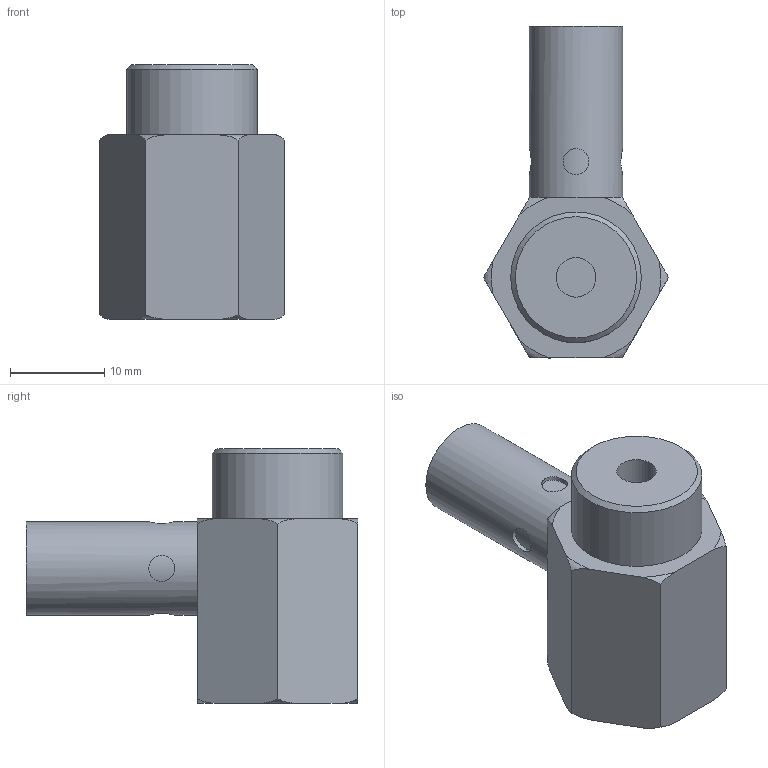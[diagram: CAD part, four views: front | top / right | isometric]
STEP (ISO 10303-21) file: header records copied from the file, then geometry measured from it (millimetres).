
FILE_DESCRIPTION (( 'STEP AP214' ), '1' );
FILE_NAME ('SSV-14-M5.STEP', '2025-02-04T12:55:01', ( '' ), ( '' ), 'SwSTEP 2.0', 'SolidWorks 2018', '' );
FILE_SCHEMA (( 'AUTOMOTIVE_DESIGN' ));
Length unit declared in the file: millimetre
Products named in the file (1): SSV-14-M5
Bounding box: 19.63 x 35.15 x 27 mm (x, y, z)
Volume: 7160.6 mm3; surface area: 2759.4 mm2
Topology: 1 solids, 1 shells, 40 faces, 92 edges, 60 vertices
Faces by surface type: plane 15, cylinder 12, torus 12, cone 1
Full cylindrical faces by diameter (mm): 2.748 x4, 4.2 x2, 9.9 x1, 13.85 x1
Entity records: 1572 total; most frequent: CARTESIAN_POINT 713, ORIENTED_EDGE 156, DIRECTION 152, EDGE_CURVE 78, AXIS2_PLACEMENT_3D 65, EDGE_LOOP 56, VERTEX_POINT 56, FACE_OUTER_BOUND 48
